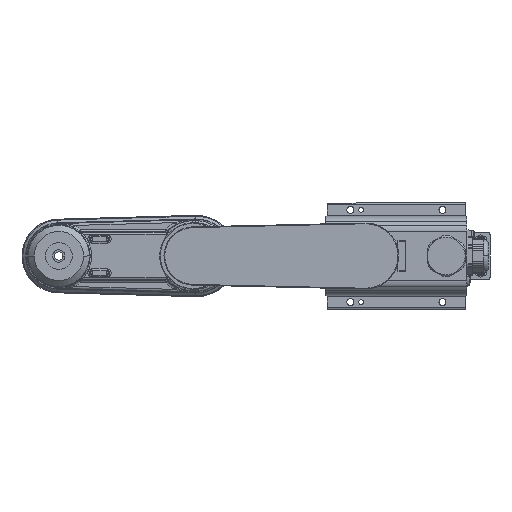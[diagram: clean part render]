
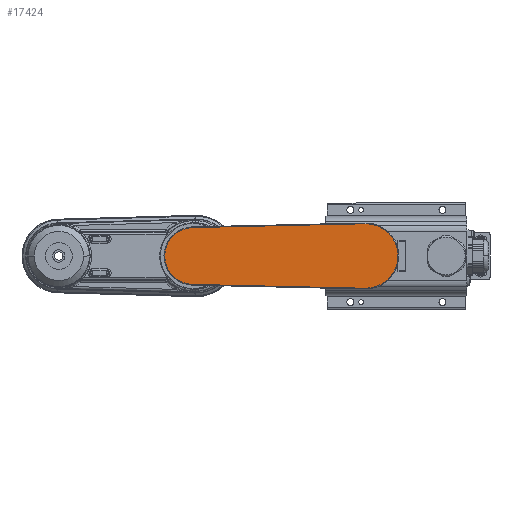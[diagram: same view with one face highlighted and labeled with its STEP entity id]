
A CAD part, front view. The second image highlights one B-rep face of the part: STEP entity #17424.
In plain terms, the highlighted planar face has unit normal (0, -1, 0).
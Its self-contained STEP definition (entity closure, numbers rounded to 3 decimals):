
#16997=CARTESIAN_POINT('',(-265.,-186.5,0.));
#16998=DIRECTION('',(0.,1.,0.));
#16999=DIRECTION('',(-0.022,0.,-1.));
#17000=AXIS2_PLACEMENT_3D('',#16997,#16998,#16999);
#17002=CARTESIAN_POINT('',(-40.,-186.5,0.));
#17003=DIRECTION('',(0.,1.,0.));
#17004=DIRECTION('',(-0.022,0.,1.));
#17005=AXIS2_PLACEMENT_3D('',#17002,#17003,#17004);
#17007=DIRECTION('',(1.,0.,-0.022));
#17008=VECTOR('',#17007,224.944);
#17009=CARTESIAN_POINT('',(-265.822,-186.5,
-36.991));
#17010=LINE('',#17009,#17008);
#17015=CARTESIAN_POINT('',(-40.,-186.5,0.));
#17016=DIRECTION('',(0.,-1.,0.));
#17017=DIRECTION('',(-0.022,0.,-1.));
#17018=AXIS2_PLACEMENT_3D('',#17015,#17016,#17017);
#17024=DIRECTION('',(-1.,0.,-0.022));
#17025=VECTOR('',#17024,224.944);
#17026=CARTESIAN_POINT('',(-40.933,-186.5,
41.99));
#17027=LINE('',#17026,#17025);
#17315=CARTESIAN_POINT('',(-265.822,-186.5,
-36.991));
#17316=CARTESIAN_POINT('',(-40.933,-186.5,
-41.99));
#17317=VERTEX_POINT('',#17315);
#17318=VERTEX_POINT('',#17316);
#17319=CARTESIAN_POINT('',(-265.822,-186.5,
36.991));
#17320=VERTEX_POINT('',#17319);
#17321=CARTESIAN_POINT('',(-40.933,-186.5,
41.99));
#17322=VERTEX_POINT('',#17321);
#17323=CARTESIAN_POINT('',(-40.,-186.5,-42.));
#17324=VERTEX_POINT('',#17323);
#17407=CARTESIAN_POINT('',(-150.022,-186.5,0.001));
#17408=DIRECTION('',(0.,1.,0.));
#17409=DIRECTION('',(1.,0.,0.));
#17410=AXIS2_PLACEMENT_3D('',#17407,#17408,#17409);
#17411=PLANE('',#17410);
#17413=ORIENTED_EDGE('',*,*,#17412,.F.);
#17415=ORIENTED_EDGE('',*,*,#17414,.T.);
#17417=ORIENTED_EDGE('',*,*,#17416,.F.);
#17419=ORIENTED_EDGE('',*,*,#17418,.T.);
#17421=ORIENTED_EDGE('',*,*,#17420,.F.);
#17422=EDGE_LOOP('',(#17413,#17415,#17417,#17419,#17421));
#17423=FACE_OUTER_BOUND('',#17422,.F.);
#17001=CIRCLE('',#17000,37.);
#17006=CIRCLE('',#17005,42.);
#17019=CIRCLE('',#17018,42.);
#17412=EDGE_CURVE('',#17317,#17318,#17010,.T.);
#17414=EDGE_CURVE('',#17317,#17320,#17001,.T.);
#17416=EDGE_CURVE('',#17322,#17320,#17027,.T.);
#17418=EDGE_CURVE('',#17322,#17324,#17006,.T.);
#17420=EDGE_CURVE('',#17318,#17324,#17019,.T.);
#17424=ADVANCED_FACE('',(#17423),#17411,.F.);
